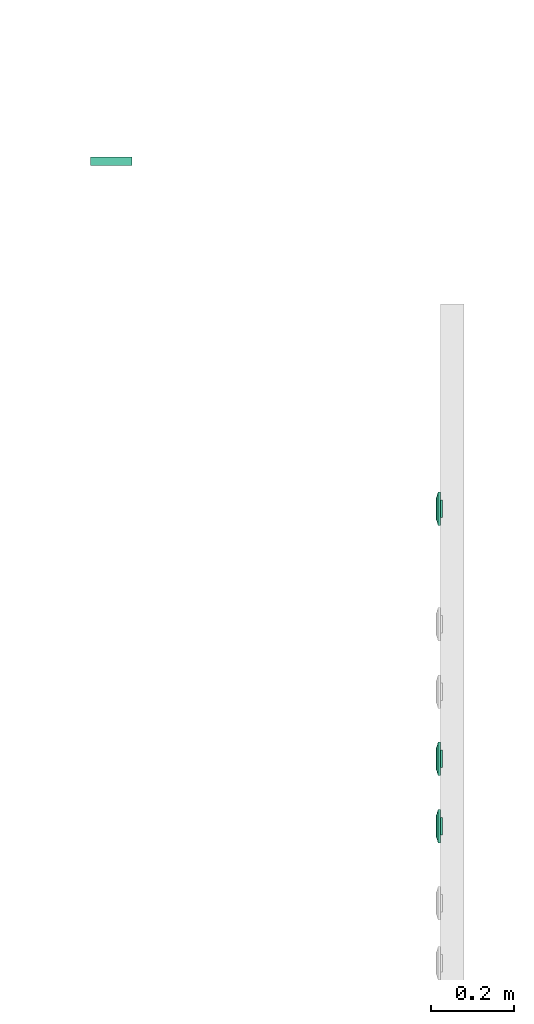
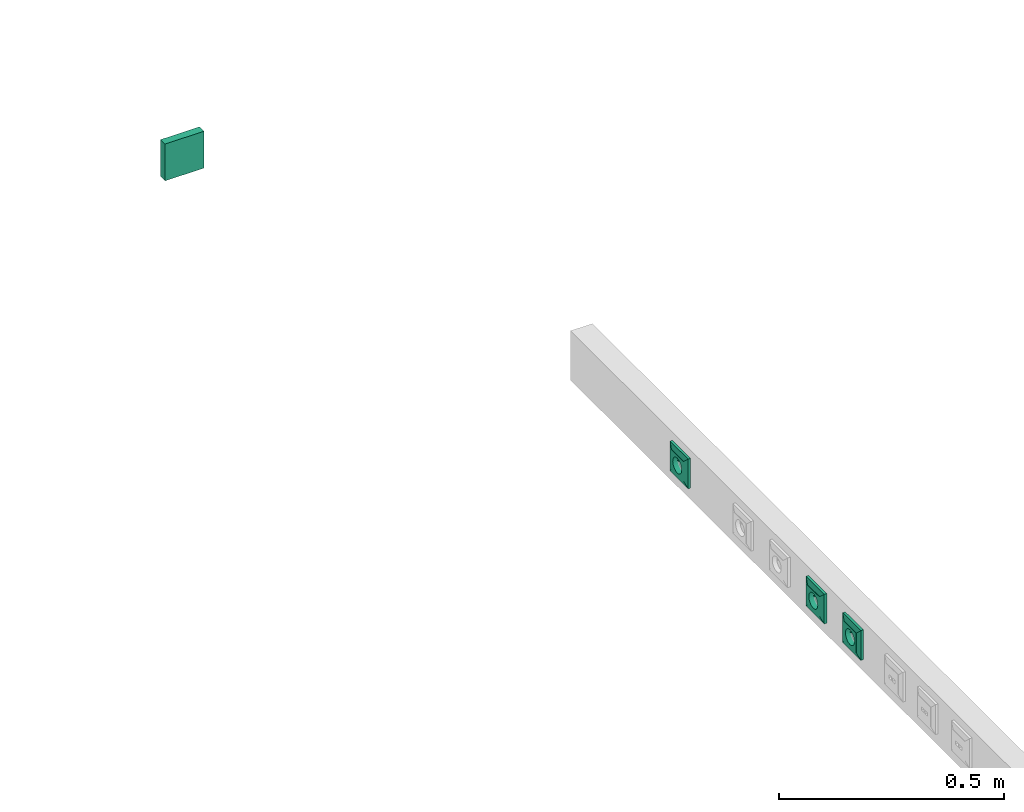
# One storey, part 66 of 166: 4 flow terminals.
"""IFC2X3 building model written with IfcOpenShell, lengths in metres."""

from ifc_helpers import new_model, entity, si_unit, converted_unit, derived_unit, direction, frame, origin, origin_2d_with_axis, place, context, subcontext, project, spatial, rectangle, extrude, face_set, surface_model, source, transform, mapped, type_object, type_shapes, element, save


model = new_model("IFC2X3")

# Units and contexts
model_context = context("Model", 3, precision=1e-05, world=origin(), true_north=direction((6.12303176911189e-17, 1.0)))
body_context = subcontext(model_context, "Body", "Model", "MODEL_VIEW")
ifc_project = project(units=[si_unit("LENGTHUNIT", "METRE"), si_unit("AREAUNIT", "SQUARE_METRE"), si_unit("VOLUMEUNIT", "CUBIC_METRE"), converted_unit("PLANEANGLEUNIT", "DEGREE", entity("IfcRatioMeasure", 0.0174532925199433), si_unit("PLANEANGLEUNIT", "RADIAN"), dimensions=[0, 0, 0, 0, 0, 0, 0]), si_unit("MASSUNIT", "GRAM", prefix="KILO"), derived_unit("MASSDENSITYUNIT", [(si_unit("MASSUNIT", "GRAM", prefix="KILO"), 1), (si_unit("LENGTHUNIT", "METRE"), -3)]), si_unit("TIMEUNIT", "SECOND"), si_unit("FREQUENCYUNIT", "HERTZ"), si_unit("THERMODYNAMICTEMPERATUREUNIT", "DEGREE_CELSIUS"), derived_unit("THERMALTRANSMITTANCEUNIT", [(si_unit("MASSUNIT", "GRAM", prefix="KILO"), 1), (si_unit("THERMODYNAMICTEMPERATUREUNIT", "KELVIN"), -1), (si_unit("TIMEUNIT", "SECOND"), -3)]), derived_unit("VOLUMETRICFLOWRATEUNIT", [(si_unit("LENGTHUNIT", "METRE"), 3), (si_unit("TIMEUNIT", "SECOND"), -1)]), si_unit("ELECTRICCURRENTUNIT", "AMPERE"), si_unit("ELECTRICVOLTAGEUNIT", "VOLT"), si_unit("POWERUNIT", "WATT"), si_unit("FORCEUNIT", "NEWTON"), si_unit("ILLUMINANCEUNIT", "LUX"), si_unit("LUMINOUSFLUXUNIT", "LUMEN"), si_unit("LUMINOUSINTENSITYUNIT", "CANDELA"), derived_unit("USERDEFINED", [(si_unit("MASSUNIT", "GRAM", prefix="KILO"), -1), (si_unit("LENGTHUNIT", "METRE"), -2), (si_unit("TIMEUNIT", "SECOND"), 3), (si_unit("LUMINOUSFLUXUNIT", "LUMEN"), 1)]), derived_unit("LINEARVELOCITYUNIT", [(si_unit("LENGTHUNIT", "METRE"), 1), (si_unit("TIMEUNIT", "SECOND"), -1)]), si_unit("PRESSUREUNIT", "PASCAL"), derived_unit("USERDEFINED", [(si_unit("LENGTHUNIT", "METRE"), -2), (si_unit("MASSUNIT", "GRAM", prefix="KILO"), 1), (si_unit("TIMEUNIT", "SECOND"), -2)])], contexts=[model_context])

# Site, building, storey
site_placement = place(None, origin())
site = spatial("IfcSite", under=ifc_project, at=site_placement, Name="Default", CompositionType="ELEMENT")
building_placement = place(site_placement, origin())
building = spatial("IfcBuilding", under=site, at=building_placement, CompositionType="ELEMENT")
storey_placement = place(building_placement, frame((0.0, 0.0, 4.27)))
storey = spatial("IfcBuildingStorey", under=building, at=storey_placement, Name="01", CompositionType="ELEMENT", Elevation=4.27)

# Flow terminals
light_fixture_type_1 = type_object("IfcLightFixtureType", Name="PC IP20", PredefinedType="NOTDEFINED")
shared_shape_1 = source(origin(), body_context, "Body", "SurfaceModel", [
    surface_model("IfcFaceBasedSurfaceModel", [(-0.00225000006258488, 0.0127499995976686, 0.00949633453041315), (0.0, 0.0104999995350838, 0.00949633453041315), (0.0, 0.0115376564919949, 0.0101656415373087), (0.0, 0.0139623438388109, 0.0101656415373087), (0.0, 0.0144589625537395, 0.00984531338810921), (0.0, 0.0121178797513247, 0.0102778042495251), (0.0, 0.0133821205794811, 0.0102778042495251), (0.0, 0.0127499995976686, 0.010399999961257), (0.0, 0.0149999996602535, 0.00949633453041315), (0.00225000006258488, 0.0127499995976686, 0.00949633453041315), (0.0, 0.0110410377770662, 0.00984531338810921), (0.0, 0.0127499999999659, 0.00949633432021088), (0.00225000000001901, 0.0127499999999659, 0.00949633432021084), (0.00217333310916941, 0.0121676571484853, 0.00949633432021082), (0.00194855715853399, 0.0116249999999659, 0.00949633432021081), (0.00159099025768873, 0.0111590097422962, 0.00949633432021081), (0.001125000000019, 0.010801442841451, 0.00949633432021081), (0.00058234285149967, 0.0105766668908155, 0.00949633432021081), (0.0, 0.0104999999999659, 0.00949633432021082), (-0.000582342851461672, 0.0105766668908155, 0.00949633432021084), (-0.001124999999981, 0.010801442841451, 0.00949633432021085), (-0.00159099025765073, 0.0111590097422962, 0.00949633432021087), (-0.00194855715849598, 0.011624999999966, 0.00949633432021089), (-0.0021733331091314, 0.0121676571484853, 0.00949633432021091), (-0.00224999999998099, 0.012749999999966, 0.00949633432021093), (-0.00217333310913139, 0.0133323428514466, 0.00949633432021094), (-0.00194855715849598, 0.013874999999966, 0.00949633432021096), (-0.00159099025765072, 0.0143409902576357, 0.00949633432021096), (-0.00112499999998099, 0.0146985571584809, 0.00949633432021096), (-0.00058234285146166, 0.0149233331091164, 0.00949633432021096), (0.0, 0.0149999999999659, 0.00949633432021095), (0.000582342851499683, 0.0149233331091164, 0.00949633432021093), (0.00112500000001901, 0.0146985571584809, 0.00949633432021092), (0.00159099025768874, 0.0143409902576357, 0.00949633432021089), (0.001948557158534, 0.0138749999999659, 0.00949633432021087), (0.00217333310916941, 0.0133323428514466, 0.00949633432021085), (0.00225000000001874, 0.0127499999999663, -0.00360000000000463), (0.00217333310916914, 0.0121676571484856, -0.00360000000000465), (0.00194855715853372, 0.0116249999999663, -0.00360000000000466), (0.00159099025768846, 0.0111590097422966, -0.00360000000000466), (0.00112500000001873, 0.0108014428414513, -0.00360000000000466), (0.000582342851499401, 0.0105766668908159, -0.00360000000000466), (0.0, 0.0104999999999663, -0.00360000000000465), (-0.000582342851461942, 0.0105766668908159, -0.00360000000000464), (-0.00112499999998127, 0.0108014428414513, -0.00360000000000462), (-0.001590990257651, 0.0111590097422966, -0.0036000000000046), (-0.00194855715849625, 0.0116249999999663, -0.00360000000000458), (-0.00217333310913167, 0.0121676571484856, -0.00360000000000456), (-0.00224999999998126, 0.0127499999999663, -0.00360000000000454), (-0.00217333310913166, 0.013332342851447, -0.00360000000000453), (-0.00194855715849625, 0.0138749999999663, -0.00360000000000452), (-0.00159099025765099, 0.014340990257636, -0.00360000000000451), (-0.00112499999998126, 0.0146985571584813, -0.00360000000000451), (-0.000582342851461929, 0.0149233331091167, -0.00360000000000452), (0.0, 0.0149999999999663, -0.00360000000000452), (0.000582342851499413, 0.0149233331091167, -0.00360000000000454), (0.00112500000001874, 0.0146985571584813, -0.00360000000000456), (0.00159099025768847, 0.014340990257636, -0.00360000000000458), (0.00194855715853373, 0.0138749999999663, -0.0036000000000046), (0.00217333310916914, 0.013332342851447, -0.00360000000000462), (0.0270000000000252, 0.026999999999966, 0.0113999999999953), (-0.0269999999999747, 0.026999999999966, 0.0113999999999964), (-0.0269999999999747, -0.0270000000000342, 0.0113999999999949), (0.0270000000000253, -0.0270000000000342, 0.0113999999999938), (-0.0199999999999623, 0.0, 0.0113999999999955), (-0.0193185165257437, -0.00517638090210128, 0.0113999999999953), (-0.0173205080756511, -0.0100000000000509, 0.0113999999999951), (-0.0141421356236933, -0.0141421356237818, 0.011399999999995), (-0.00999999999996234, -0.0173205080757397, 0.0113999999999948), (-0.00517638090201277, -0.0193185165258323, 0.0113999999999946), (0.0, -0.0200000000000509, 0.0113999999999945), (0.00517638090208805, -0.0193185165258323, 0.0113999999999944), (0.0100000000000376, -0.0173205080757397, 0.0113999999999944), (0.0141421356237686, -0.0141421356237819, 0.0113999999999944), (0.0173205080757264, -0.010000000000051, 0.0113999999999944), (0.0193185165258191, -0.00517638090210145, 0.0113999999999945), (0.0200000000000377, 0.0, 0.0113999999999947), (0.0193185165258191, 0.00517638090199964, 0.0113999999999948), (0.0173205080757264, 0.0099999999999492, 0.011399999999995), (0.0141421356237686, 0.0141421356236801, 0.0113999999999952), (0.0100000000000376, 0.0173205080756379, 0.0113999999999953), (0.00517638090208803, 0.0193185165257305, 0.0113999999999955), (0.0, 0.0199999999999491, 0.0113999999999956), (-0.00517638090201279, 0.0193185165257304, 0.0113999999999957), (-0.00999999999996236, 0.0173205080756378, 0.0113999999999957), (-0.0141421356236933, 0.01414213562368, 0.0113999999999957), (-0.0173205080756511, 0.00999999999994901, 0.0113999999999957), (-0.0193185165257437, 0.00517638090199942, 0.0113999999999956), (0.0270000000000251, 0.0269999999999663, 0.00199999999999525), (0.0270000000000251, -0.0270000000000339, 0.00199999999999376), (-0.0269999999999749, -0.0270000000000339, 0.00199999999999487), (-0.0269999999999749, 0.0269999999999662, 0.00199999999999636), (0.0210000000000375, 0.0, 0.00199999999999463), (0.0202844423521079, -0.00543519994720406, 0.00199999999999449), (0.0181865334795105, -0.0105000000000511, 0.0019999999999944), (0.0148492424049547, -0.0148492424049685, 0.00199999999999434), (0.0105000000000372, -0.0181865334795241, 0.00199999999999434), (0.0054351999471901, -0.0202844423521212, 0.00199999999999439), (0.0, -0.0210000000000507, 0.00199999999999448), (-0.00543519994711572, -0.020284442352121, 0.00199999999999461), (-0.0104999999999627, -0.0181865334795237, 0.00199999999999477), (-0.0148492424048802, -0.014849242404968, 0.00199999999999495), (-0.0181865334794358, -0.0105000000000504, 0.00199999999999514), (-0.020284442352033, -0.00543519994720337, 0.00199999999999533), (-0.0209999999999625, 0.0, 0.00199999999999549), (-0.0202844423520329, 0.0054351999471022, 0.00199999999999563), (-0.0181865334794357, 0.0104999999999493, 0.00199999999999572), (-0.01484924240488, 0.0148492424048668, 0.00199999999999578), (-0.0104999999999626, 0.0181865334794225, 0.00199999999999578), (-0.00543519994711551, 0.0202844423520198, 0.00199999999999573), (0.0, 0.0209999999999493, 0.00199999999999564), (0.00543519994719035, 0.0202844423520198, 0.00199999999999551), (0.0105000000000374, 0.0181865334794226, 0.00199999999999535), (0.0148492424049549, 0.0148492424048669, 0.00199999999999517), (0.0181865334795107, 0.0104999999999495, 0.00199999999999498), (0.0202844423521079, 0.00543519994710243, 0.00199999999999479), (0.0200000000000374, 0.0, -0.00360000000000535), (0.0193185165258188, -0.00517638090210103, -0.00360000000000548), (0.0173205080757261, -0.0100000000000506, -0.00360000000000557), (0.0141421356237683, -0.0141421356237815, -0.00360000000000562), (0.0100000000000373, -0.0173205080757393, -0.00360000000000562), (0.00517638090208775, -0.0193185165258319, -0.00360000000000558), (0.0, -0.0200000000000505, -0.00360000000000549), (-0.00517638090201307, -0.0193185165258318, -0.00360000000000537), (-0.00999999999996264, -0.0173205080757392, -0.00360000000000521), (-0.0141421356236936, -0.0141421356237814, -0.00360000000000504), (-0.0173205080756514, -0.0100000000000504, -0.00360000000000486), (-0.019318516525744, -0.00517638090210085, -0.00360000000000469), (-0.0199999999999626, 0.0, -0.00360000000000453), (-0.0193185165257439, 0.00517638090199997, -0.0036000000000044), (-0.0173205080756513, 0.00999999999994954, -0.00360000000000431), (-0.0141421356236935, 0.0141421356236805, -0.00360000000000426), (-0.00999999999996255, 0.0173205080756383, -0.00360000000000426), (-0.00517638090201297, 0.0193185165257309, -0.0036000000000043), (0.0, 0.0199999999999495, -0.00360000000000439), (0.00517638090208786, 0.0193185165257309, -0.00360000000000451), (0.0100000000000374, 0.0173205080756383, -0.00360000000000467), (0.0141421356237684, 0.0141421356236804, -0.00360000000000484), (0.0173205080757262, 0.0099999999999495, -0.00360000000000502), (0.0193185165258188, 0.00517638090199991, -0.00360000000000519), (-0.0123499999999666, 0.0, -0.00360000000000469), (-0.0122562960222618, -0.000711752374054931, -0.00360000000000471), (-0.0119815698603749, -0.00137500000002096, -0.00360000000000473), (-0.0115445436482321, -0.00194454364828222, -0.00360000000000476), (-0.0109749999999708, -0.00238156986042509, -0.00360000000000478), (-0.0103117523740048, -0.00265629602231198, -0.0036000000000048), (-0.00959999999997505, -0.00275000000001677, -0.00360000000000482), (-0.0088882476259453, -0.00265629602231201, -0.00360000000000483), (-0.00822499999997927, -0.00238156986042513, -0.00360000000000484), (-0.00765545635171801, -0.00194454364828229, -0.00360000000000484), (-0.00721843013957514, -0.00137500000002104, -0.00360000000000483), (-0.00694370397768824, -0.000711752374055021, -0.00360000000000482), (-0.00684999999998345, 0.0, -0.0036000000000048), (-0.00694370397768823, 0.000711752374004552, -0.00360000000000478), (-0.00721843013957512, 0.00137499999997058, -0.00360000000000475), (-0.00765545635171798, 0.00194454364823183, -0.00360000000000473), (-0.00822499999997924, 0.00238156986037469, -0.0036000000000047), (-0.00888824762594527, 0.00265629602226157, -0.00360000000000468), (-0.00959999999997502, 0.00274999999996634, -0.00360000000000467), (-0.0103117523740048, 0.00265629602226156, -0.00360000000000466), (-0.0109749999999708, 0.00238156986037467, -0.00360000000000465), (-0.011544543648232, 0.00194454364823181, -0.00360000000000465), (-0.0119815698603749, 0.00137499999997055, -0.00360000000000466), (-0.0122562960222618, 0.000711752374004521, -0.00360000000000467), (0.00685000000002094, 0.0, -0.00360000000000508), (0.0069437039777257, -0.00071175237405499, -0.0036000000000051), (0.00721843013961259, -0.00137500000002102, -0.00360000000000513), (0.00765545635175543, -0.00194454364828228, -0.00360000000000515), (0.00822500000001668, -0.00238156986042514, -0.00360000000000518), (0.00888824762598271, -0.00265629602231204, -0.0036000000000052), (0.00960000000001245, -0.00275000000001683, -0.00360000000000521), (0.0103117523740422, -0.00265629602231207, -0.00360000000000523), (0.0109750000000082, -0.00238156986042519, -0.00360000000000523), (0.0115445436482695, -0.00194454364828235, -0.00360000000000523), (0.0119815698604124, -0.0013750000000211, -0.00360000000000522), (0.0122562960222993, -0.00071175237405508, -0.00360000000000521), (0.012350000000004, 0.0, -0.00360000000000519), (0.0122562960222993, 0.000711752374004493, -0.00360000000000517), (0.0119815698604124, 0.00137499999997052, -0.00360000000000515), (0.0115445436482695, 0.00194454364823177, -0.00360000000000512), (0.0109750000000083, 0.00238156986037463, -0.0036000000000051), (0.0103117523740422, 0.00265629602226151, -0.00360000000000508), (0.00960000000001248, 0.00274999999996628, -0.00360000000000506), (0.00888824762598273, 0.0026562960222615, -0.00360000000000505), (0.0082250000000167, 0.00238156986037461, -0.00360000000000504), (0.00765545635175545, 0.00194454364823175, -0.00360000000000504), (0.0072184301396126, 0.00137499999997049, -0.00360000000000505), (0.00694370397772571, 0.000711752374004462, -0.00360000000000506), (0.0210000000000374, 0.0, -0.00460000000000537), (0.0202844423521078, -0.00543519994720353, -0.00460000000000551), (0.0181865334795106, -0.0105000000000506, -0.0046000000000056), (0.0148492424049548, -0.0148492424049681, -0.00460000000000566), (0.0105000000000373, -0.0181865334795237, -0.00460000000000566), (0.00543519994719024, -0.0202844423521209, -0.00460000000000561), (0.0, -0.0210000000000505, -0.00460000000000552), (-0.00543519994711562, -0.0202844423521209, -0.00460000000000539), (-0.0104999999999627, -0.0181865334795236, -0.00460000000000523), (-0.0148492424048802, -0.0148492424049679, -0.00460000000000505), (-0.0181865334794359, -0.0105000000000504, -0.00460000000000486), (-0.0202844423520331, -0.00543519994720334, -0.00460000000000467), (-0.0209999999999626, 0.0, -0.00460000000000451), (-0.020284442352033, 0.00543519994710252, -0.00460000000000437), (-0.0181865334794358, 0.0104999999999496, -0.00460000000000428), (-0.0148492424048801, 0.0148492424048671, -0.00460000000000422), (-0.0104999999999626, 0.0181865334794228, -0.00460000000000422), (-0.00543519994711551, 0.02028444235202, -0.00460000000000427), (0.0, 0.0209999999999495, -0.00460000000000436), (0.00543519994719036, 0.02028444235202, -0.00460000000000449), (0.0105000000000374, 0.0181865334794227, -0.00460000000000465), (0.0148492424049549, 0.014849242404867, -0.00460000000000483), (0.0181865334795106, 0.0104999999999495, -0.00460000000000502), (0.0202844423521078, 0.00543519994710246, -0.00460000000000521), (-0.00684999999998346, 0.0, -0.0046000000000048), (-0.00694370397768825, 0.000711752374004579, -0.00460000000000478), (-0.00721843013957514, 0.00137499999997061, -0.00460000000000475), (-0.007655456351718, 0.00194454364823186, -0.00460000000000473), (-0.00822499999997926, 0.00238156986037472, -0.0046000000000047), (-0.00888824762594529, 0.0026562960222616, -0.00460000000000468), (-0.00959999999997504, 0.00274999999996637, -0.00460000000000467), (-0.0103117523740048, 0.00265629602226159, -0.00460000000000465), (-0.0109749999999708, 0.0023815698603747, -0.00460000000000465), (-0.0115445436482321, 0.00194454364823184, -0.00460000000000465), (-0.0119815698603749, 0.00137499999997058, -0.00460000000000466), (-0.0122562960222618, 0.000711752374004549, -0.00460000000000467), (-0.0123499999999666, 0.0, -0.00460000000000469), (-0.0122562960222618, -0.000711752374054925, -0.00460000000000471), (-0.0119815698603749, -0.00137500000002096, -0.00460000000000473), (-0.0115445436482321, -0.00194454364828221, -0.00460000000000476), (-0.0109749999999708, -0.00238156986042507, -0.00460000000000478), (-0.0103117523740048, -0.00265629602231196, -0.0046000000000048), (-0.00959999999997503, -0.00275000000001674, -0.00460000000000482), (-0.00888824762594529, -0.00265629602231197, -0.00460000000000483), (-0.00822499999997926, -0.00238156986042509, -0.00460000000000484), (-0.007655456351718, -0.00194454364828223, -0.00460000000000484), (-0.00721843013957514, -0.00137500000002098, -0.00460000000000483), (-0.00694370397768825, -0.000711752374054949, -0.00460000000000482), (0.012350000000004, 0.0, -0.00460000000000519), (0.0122562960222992, 0.000711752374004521, -0.00460000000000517), (0.0119815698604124, 0.00137499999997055, -0.00460000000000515), (0.0115445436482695, 0.0019445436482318, -0.00460000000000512), (0.0109750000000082, 0.00238156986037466, -0.0046000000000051), (0.0103117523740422, 0.00265629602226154, -0.00460000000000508), (0.00960000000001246, 0.00274999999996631, -0.00460000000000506), (0.00888824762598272, 0.00265629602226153, -0.00460000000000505), (0.00822500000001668, 0.00238156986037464, -0.00460000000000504), (0.00765545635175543, 0.00194454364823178, -0.00460000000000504), (0.00721843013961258, 0.00137499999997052, -0.00460000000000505), (0.00694370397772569, 0.00071175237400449, -0.00460000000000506), (0.00685000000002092, 0.0, -0.00460000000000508), (0.00694370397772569, -0.000711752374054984, -0.0046000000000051), (0.00721843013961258, -0.00137500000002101, -0.00460000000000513), (0.00765545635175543, -0.00194454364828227, -0.00460000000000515), (0.00822500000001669, -0.00238156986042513, -0.00460000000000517), (0.00888824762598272, -0.00265629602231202, -0.0046000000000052), (0.00960000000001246, -0.0027500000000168, -0.00460000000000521), (0.0103117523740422, -0.00265629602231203, -0.00460000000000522), (0.0109750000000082, -0.00238156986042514, -0.00460000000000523), (0.0115445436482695, -0.00194454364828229, -0.00460000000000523), (0.0119815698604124, -0.00137500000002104, -0.00460000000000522), (0.0122562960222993, -0.000711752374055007, -0.00460000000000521), (0.040350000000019, 0.0403499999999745, 0.00659999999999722), (0.040350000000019, -0.0403500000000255, 0.00659999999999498), (-0.0403499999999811, -0.0403500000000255, 0.00659999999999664), (-0.0403499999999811, 0.0403499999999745, 0.00659999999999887), (0.027000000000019, 0.0269999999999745, 0.00659999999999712), (-0.0269999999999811, 0.0269999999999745, 0.00659999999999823), (-0.026999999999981, -0.0270000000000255, 0.00659999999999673), (0.027000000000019, -0.0270000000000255, 0.00659999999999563), (0.027000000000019, 0.0269999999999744, 0.0103999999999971), (-0.026999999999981, 0.0269999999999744, 0.0103999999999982), (-0.026999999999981, -0.0270000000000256, 0.0103999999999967), (0.027000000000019, -0.0270000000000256, 0.0103999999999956), (0.040350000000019, 0.0403499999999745, 0.00659999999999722), (0.040350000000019, -0.0403500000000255, 0.00659999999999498), (-0.0403499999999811, -0.0403500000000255, 0.00659999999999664), (-0.0403499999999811, 0.0403499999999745, 0.00659999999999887), (-0.0269999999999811, 0.0269999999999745, 0.00659999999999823), (-0.0269999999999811, -0.0270000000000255, 0.00659999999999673), (0.0270000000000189, -0.0270000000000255, 0.00659999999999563), (0.0270000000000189, 0.0269999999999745, 0.00659999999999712), (0.0403500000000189, 0.0403499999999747, 0.0), (0.0403500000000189, -0.0403500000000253, 0.0), (-0.0403499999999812, -0.0403500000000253, 0.0), (-0.0403499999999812, 0.0403499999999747, 0.0), (0.0270000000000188, 0.0269999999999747, 0.0), (-0.0269999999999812, 0.0269999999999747, 0.0), (-0.0269999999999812, -0.0270000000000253, 0.0), (0.0270000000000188, -0.0270000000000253, 0.0)], [face_set([[[0, 1, 2]], [[3, 4, 2, 5]], [[6, 3, 5, 7]], [[2, 4, 0]], [[4, 8, 0]], [[3, 9, 8]], [[1, 9, 10]], [[2, 3, 6, 7]], [[3, 10, 9]], [[2, 10, 3]], [[11, 1, 0, 8]], [[11, 8, 9, 1]]]), face_set([[[12, 13, 14, 15, 16, 17, 18, 19, 20, 21, 22, 23, 24, 25, 26, 27, 28, 29, 30, 31, 32, 33, 34, 35]], [[36, 37, 38, 39, 40, 41, 42, 43, 44, 45, 46, 47, 48, 49, 50, 51, 52, 53, 54, 55, 56, 57, 58, 59]], [[48, 47, 23, 24]], [[47, 46, 22, 23]], [[45, 44, 20, 21]], [[46, 45, 21, 22]], [[44, 43, 19, 20]], [[18, 19, 43, 42]], [[42, 41, 17, 18]], [[41, 40, 16, 17]], [[39, 38, 14, 15]], [[40, 39, 15, 16]], [[38, 37, 13, 14]], [[12, 13, 37, 36]], [[36, 59, 35, 12]], [[59, 58, 34, 35]], [[57, 56, 32, 33]], [[58, 57, 33, 34]], [[56, 55, 31, 32]], [[30, 31, 55, 54]], [[54, 53, 29, 30]], [[53, 52, 28, 29]], [[51, 50, 26, 27]], [[52, 51, 27, 28]], [[50, 49, 25, 26]], [[24, 25, 49, 48]]]), face_set([[[60, 61, 62, 63], [64, 65, 66, 67, 68, 69, 70, 71, 72, 73, 74, 75, 76, 77, 78, 79, 80, 81, 82, 83, 84, 85, 86, 87]], [[88, 89, 90, 91], [92, 93, 94, 95, 96, 97, 98, 99, 100, 101, 102, 103, 104, 105, 106, 107, 108, 109, 110, 111, 112, 113, 114, 115]], [[61, 60, 88, 91]], [[62, 61, 91, 90]], [[63, 62, 90, 89]], [[60, 63, 89, 88]], [[116, 117, 118, 119, 120, 121, 122, 123, 124, 125, 126, 127, 128, 129, 130, 131, 132, 133, 134, 135, 136, 137, 138, 139], [140, 141, 142, 143, 144, 145, 146, 147, 148, 149, 150, 151, 152, 153, 154, 155, 156, 157, 158, 159, 160, 161, 162, 163], [164, 165, 166, 167, 168, 169, 170, 171, 172, 173, 174, 175, 176, 177, 178, 179, 180, 181, 182, 183, 184, 185, 186, 187]], [[64, 128, 127, 65]], [[65, 127, 126, 66]], [[67, 125, 124, 68]], [[66, 126, 125, 67]], [[68, 124, 123, 69]], [[122, 70, 69, 123]], [[70, 122, 121, 71]], [[71, 121, 120, 72]], [[73, 119, 118, 74]], [[72, 120, 119, 73]], [[74, 118, 117, 75]], [[116, 76, 75, 117]], [[76, 116, 139, 77]], [[77, 139, 138, 78]], [[79, 137, 136, 80]], [[78, 138, 137, 79]], [[80, 136, 135, 81]], [[134, 82, 81, 135]], [[82, 134, 133, 83]], [[83, 133, 132, 84]], [[84, 132, 131, 85]], [[85, 131, 130, 86]], [[130, 129, 87, 86]], [[64, 87, 129, 128]], [[188, 189, 190, 191, 192, 193, 194, 195, 196, 197, 198, 199, 200, 201, 202, 203, 204, 205, 206, 207, 208, 209, 210, 211], [212, 213, 214, 215, 216, 217, 218, 219, 220, 221, 222, 223, 224, 225, 226, 227, 228, 229, 230, 231, 232, 233, 234, 235], [236, 237, 238, 239, 240, 241, 242, 243, 244, 245, 246, 247, 248, 249, 250, 251, 252, 253, 254, 255, 256, 257, 258, 259]], [[200, 199, 103, 104]], [[199, 198, 102, 103]], [[197, 196, 100, 101]], [[198, 197, 101, 102]], [[196, 195, 99, 100]], [[98, 99, 195, 194]], [[194, 193, 97, 98]], [[193, 192, 96, 97]], [[191, 190, 94, 95]], [[192, 191, 95, 96]], [[190, 189, 93, 94]], [[92, 93, 189, 188]], [[188, 211, 115, 92]], [[211, 210, 114, 115]], [[209, 208, 112, 113]], [[210, 209, 113, 114]], [[208, 207, 111, 112]], [[110, 111, 207, 206]], [[206, 205, 109, 110]], [[205, 204, 108, 109]], [[203, 202, 106, 107]], [[204, 203, 107, 108]], [[202, 201, 105, 106]], [[104, 105, 201, 200]], [[141, 225, 226, 142]], [[140, 224, 225, 141]], [[144, 228, 229, 145]], [[143, 227, 228, 144]], [[142, 226, 227, 143]], [[230, 146, 145, 229]], [[149, 233, 232, 148]], [[148, 232, 231, 147]], [[152, 212, 235, 151]], [[151, 235, 234, 150]], [[150, 234, 233, 149]], [[146, 230, 231, 147]], [[154, 214, 213, 153]], [[153, 213, 212, 152]], [[157, 217, 216, 156]], [[156, 216, 215, 155]], [[155, 215, 214, 154]], [[218, 158, 157, 217]], [[160, 220, 221, 161]], [[159, 219, 220, 160]], [[163, 223, 224, 140]], [[162, 222, 223, 163]], [[161, 221, 222, 162]], [[158, 218, 219, 159]], [[166, 250, 249, 165]], [[165, 249, 248, 164]], [[169, 253, 252, 168]], [[168, 252, 251, 167]], [[167, 251, 250, 166]], [[254, 170, 169, 253]], [[172, 256, 257, 173]], [[171, 255, 256, 172]], [[175, 259, 236, 176]], [[174, 258, 259, 175]], [[173, 257, 258, 174]], [[170, 254, 255, 171]], [[177, 237, 238, 178]], [[176, 236, 237, 177]], [[180, 240, 241, 181]], [[179, 239, 240, 180]], [[178, 238, 239, 179]], [[242, 182, 181, 241]], [[185, 245, 244, 184]], [[184, 244, 243, 183]], [[164, 248, 247, 187]], [[187, 247, 246, 186]], [[186, 246, 245, 185]], [[182, 242, 243, 183]]]), face_set([[[260, 261, 262, 263], [264, 265, 266, 267]], [[260, 268, 269, 263]], [[263, 269, 270, 262]], [[262, 270, 271, 261]], [[261, 271, 268, 260]], [[264, 265, 269, 268]], [[265, 266, 270, 269]], [[266, 267, 271, 270]], [[268, 271, 267, 264]]]), face_set([[[272, 273, 274, 275], [276, 277, 278, 279]], [[280, 281, 282, 283], [284, 285, 286, 287]], [[275, 272, 280, 283]], [[274, 275, 283, 282]], [[273, 274, 282, 281]], [[272, 273, 281, 280]], [[284, 285, 276, 279]], [[285, 286, 277, 276]], [[286, 287, 278, 277]], [[279, 278, 287, 284]]])]),
])
type_shapes(light_fixture_type_1, [shared_shape_1])
for number, where, z_axis, x_axis in (
    (1, (29.3537440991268, -186.361554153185, 4.70800000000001), (-1.0, 0.0, 0.0), (0.0, -1.0, 0.0)),
    (2, (29.3537440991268, -186.524554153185, 4.70800000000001), (-1.0, 0.0, 0.0), (0.0, -1.0, 0.0)),
    (3, (29.3537440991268, -185.756554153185, 4.70800000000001), (-1.0, 0.0, 0.0), (0.0, -1.0, 0.0)),
):
    element("IfcFlowTerminal", number, at=place(building_placement, frame(where, z_axis=z_axis, x_axis=x_axis)), inside=storey, type_object=light_fixture_type_1, Name="INT Prise de courant:PC IP20", ObjectType="INT Prise de courant:PC IP20", context=body_context, shape_type="MappedRepresentation", body=[
        mapped(shared_shape_1, transform((0.0, 0.0, 0.0), scale=1.0)),
    ])
light_fixture_type_2 = type_object("IfcLightFixtureType", Name="Default", PredefinedType="NOTDEFINED")
shared_shape_2 = source(origin(), body_context, "Body", "SweptSolid", [
    extrude(rectangle(XDim=0.1, YDim=0.1, at=origin_2d_with_axis()), frame((0.0, 0.0, 0.0), z_axis=(0.0, 0.0, 1.0), x_axis=(0.0, 1.0, 0.0)), (0.0, 0.0, 1.0), 0.02),
])
type_shapes(light_fixture_type_2, [shared_shape_2])
flow_terminal_placement = place(building_placement, frame((28.5565184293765, -184.926487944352, 5.32000000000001), z_axis=(0.0, 1.0, 0.0), x_axis=(-1.0, 0.0, 0.0)))
element("IfcFlowTerminal", 4, at=flow_terminal_placement, inside=storey, type_object=light_fixture_type_2, Name="E_Reader_Badge 1_F_MEPcontent:Default", ObjectType="E_Reader_Badge 1_F_MEPcontent:Default", context=body_context, shape_type="MappedRepresentation", body=[
    mapped(shared_shape_2, transform((0.0, 0.0, 0.0), scale=1.0)),
])

save(model, "model.ifc")
